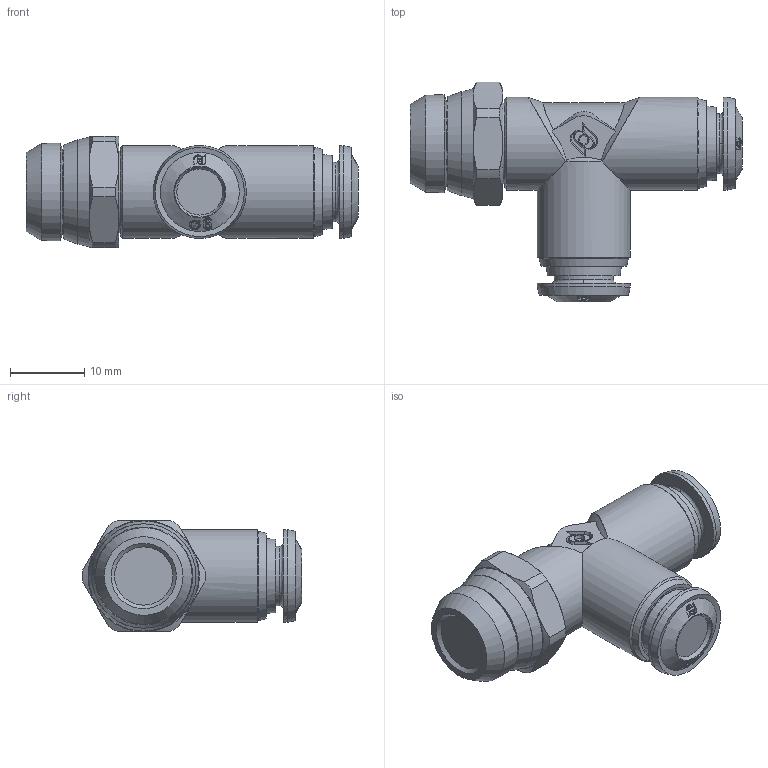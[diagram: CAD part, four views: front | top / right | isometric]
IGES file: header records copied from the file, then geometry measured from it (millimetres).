
Start section: SolidWorks IGES file using analytic representation for surfaces
Global section: file name: K:\Disegni Esecutivi\SERIE 57000\57.000-iges\57223_igs\5722300005A.IGS; native system: SolidWorks 2011; preprocessor: SolidWorks 2011; author: cad05; date: 120615.175742; units: millimetre
Bounding box: 44.7 x 29.6 x 15 mm (x, y, z)
Surface area: 3209.9 mm2 (no closed solid volume)
Topology: 0 solids, 0 shells, 277 faces, 2445 edges, 2401 vertices
Faces by surface type: bspline 161, revolution 116
